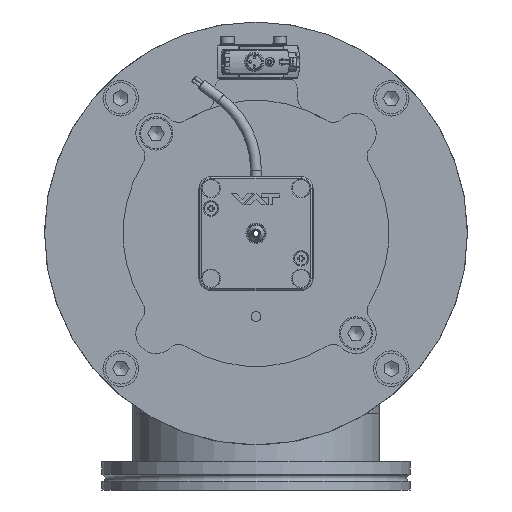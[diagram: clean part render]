
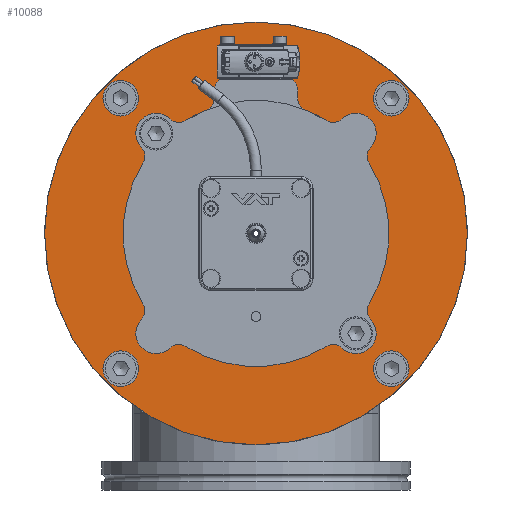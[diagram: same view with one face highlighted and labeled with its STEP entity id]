
A CAD part, left-side view. The second image highlights one B-rep face of the part: STEP entity #10088.
In plain terms, the highlighted planar face has unit normal (-1, 0, 0).
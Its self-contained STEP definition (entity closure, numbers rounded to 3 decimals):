
#10088=ADVANCED_FACE('BCT_REF_156008',(#13021,#13022,#13023,#13024,#13025,
#13026,#13027,#13028),#11151,.F.);
#11151=PLANE('',#29882);
#11992=CIRCLE('',#29859,89.);
#12002=CIRCLE('',#29875,3.4);
#12003=CIRCLE('',#29876,3.4);
#12004=CIRCLE('',#29877,7.5);
#12005=CIRCLE('',#29878,7.5);
#12006=CIRCLE('',#29879,7.5);
#12007=CIRCLE('',#29880,7.5);
#12008=CIRCLE('',#29881,55.145);
#13021=FACE_BOUND('',#14049,.T.);
#13022=FACE_BOUND('',#14050,.T.);
#13023=FACE_BOUND('',#14051,.T.);
#13024=FACE_BOUND('',#14052,.T.);
#13025=FACE_BOUND('',#14053,.T.);
#13026=FACE_BOUND('',#14054,.T.);
#13027=FACE_BOUND('',#14055,.T.);
#13028=FACE_BOUND('',#14056,.T.);
#14049=EDGE_LOOP('',(#17087));
#14050=EDGE_LOOP('',(#17088));
#14051=EDGE_LOOP('',(#17089));
#14052=EDGE_LOOP('',(#17090));
#14053=EDGE_LOOP('',(#17091));
#14054=EDGE_LOOP('',(#17092));
#14055=EDGE_LOOP('',(#17093));
#14056=EDGE_LOOP('',(#17094));
#17087=ORIENTED_EDGE('',*,*,#23932,.T.);
#17088=ORIENTED_EDGE('',*,*,#23933,.T.);
#17089=ORIENTED_EDGE('',*,*,#23934,.T.);
#17090=ORIENTED_EDGE('',*,*,#23935,.T.);
#17091=ORIENTED_EDGE('',*,*,#23936,.T.);
#17092=ORIENTED_EDGE('',*,*,#23937,.T.);
#17093=ORIENTED_EDGE('',*,*,#23938,.T.);
#17094=ORIENTED_EDGE('',*,*,#23912,.T.);
#21629=VERTEX_POINT('',#41300);
#21644=VERTEX_POINT('',#41353);
#21645=VERTEX_POINT('',#41355);
#21646=VERTEX_POINT('',#41357);
#21647=VERTEX_POINT('',#41359);
#21648=VERTEX_POINT('',#41361);
#21649=VERTEX_POINT('',#41363);
#21650=VERTEX_POINT('',#41365);
#23912=EDGE_CURVE('',#21629,#21629,#11992,.T.);
#23932=EDGE_CURVE('',#21644,#21644,#12002,.T.);
#23933=EDGE_CURVE('',#21645,#21645,#12003,.T.);
#23934=EDGE_CURVE('BCT_REF_155885',#21646,#21646,#12004,.T.);
#23935=EDGE_CURVE('',#21647,#21647,#12005,.T.);
#23936=EDGE_CURVE('',#21648,#21648,#12006,.T.);
#23937=EDGE_CURVE('',#21649,#21649,#12007,.T.);
#23938=EDGE_CURVE('BCT_REF_156011',#21650,#21650,#12008,.T.);
#29859=AXIS2_PLACEMENT_3D('',#41299,#33617,#33618);
#29875=AXIS2_PLACEMENT_3D('',#41352,#33657,#33658);
#29876=AXIS2_PLACEMENT_3D('',#41354,#33659,#33660);
#29877=AXIS2_PLACEMENT_3D('',#41356,#33661,#33662);
#29878=AXIS2_PLACEMENT_3D('',#41358,#33663,#33664);
#29879=AXIS2_PLACEMENT_3D('',#41360,#33665,#33666);
#29880=AXIS2_PLACEMENT_3D('',#41362,#33667,#33668);
#29881=AXIS2_PLACEMENT_3D('',#41364,#33669,#33670);
#29882=AXIS2_PLACEMENT_3D('',#41366,#33671,#33672);
#33617=DIRECTION('',(-1.,0.,0.));
#33618=DIRECTION('',(0.,0.,1.));
#33657=DIRECTION('',(1.,0.,0.));
#33658=DIRECTION('',(0.,0.,1.));
#33659=DIRECTION('',(1.,0.,0.));
#33660=DIRECTION('',(0.,0.,-1.));
#33661=DIRECTION('',(1.,0.,0.));
#33662=DIRECTION('',(0.,-1.,0.));
#33663=DIRECTION('',(1.,0.,0.));
#33664=DIRECTION('',(0.,0.,1.));
#33665=DIRECTION('',(1.,0.,0.));
#33666=DIRECTION('',(0.,1.,0.));
#33667=DIRECTION('',(1.,0.,0.));
#33668=DIRECTION('',(0.,0.,-1.));
#33669=DIRECTION('',(1.,0.,0.));
#33670=DIRECTION('',(0.,0.,-1.));
#33671=DIRECTION('',(1.,0.,0.));
#33672=DIRECTION('',(0.,0.,-1.));
#41299=CARTESIAN_POINT('',(0.,0.,0.));
#41300=CARTESIAN_POINT('',(0.,0.,89.));
#41352=CARTESIAN_POINT('',(0.,-42.073,42.073));
#41353=CARTESIAN_POINT('',(0.,-42.073,45.473));
#41354=CARTESIAN_POINT('',(0.,42.073,-42.073));
#41355=CARTESIAN_POINT('',(0.,42.073,-45.473));
#41356=CARTESIAN_POINT('',(0.,56.922,-56.922));
#41357=CARTESIAN_POINT('',(0.,49.422,-56.922));
#41358=CARTESIAN_POINT('',(0.,-56.922,-56.922));
#41359=CARTESIAN_POINT('',(0.,-56.922,-49.422));
#41360=CARTESIAN_POINT('',(0.,-56.922,56.922));
#41361=CARTESIAN_POINT('',(0.,-49.422,56.922));
#41362=CARTESIAN_POINT('',(0.,56.922,56.922));
#41363=CARTESIAN_POINT('',(0.,56.922,49.422));
#41364=CARTESIAN_POINT('',(0.,0.,0.));
#41365=CARTESIAN_POINT('',(0.,0.,-55.145));
#41366=CARTESIAN_POINT('',(0.,89.,0.));
